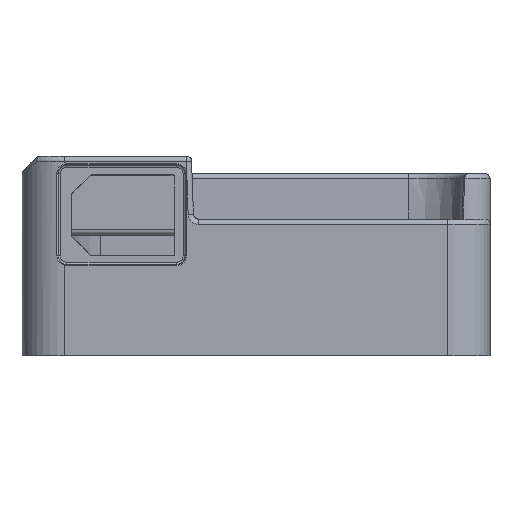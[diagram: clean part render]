
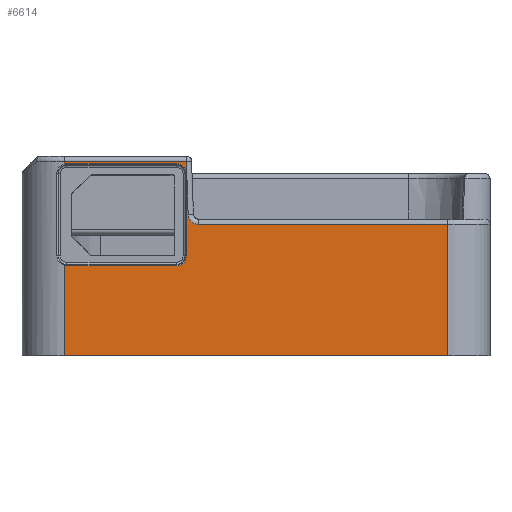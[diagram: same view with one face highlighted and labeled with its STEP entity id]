
A CAD part, front view. The second image highlights one B-rep face of the part: STEP entity #6614.
In plain terms, the highlighted planar face has unit normal (0, -1, 0).
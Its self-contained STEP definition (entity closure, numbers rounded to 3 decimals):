
#35 = CARTESIAN_POINT ( 'NONE',  ( -2.788, -64.3, -0.671 ) ) ;
#175 = LINE ( 'NONE', #29538, #1893 ) ;
#997 = CARTESIAN_POINT ( 'NONE',  ( -3.033, -64.3, -9.215 ) ) ;
#1168 = VECTOR ( 'NONE', #15500, 1000. ) ;
#1251 = ORIENTED_EDGE ( 'NONE', *, *, #22798, .F. ) ;
#1420 = DIRECTION ( 'NONE',  ( 0., -1., 0. ) ) ;
#1774 = CIRCLE ( 'NONE', #11689, 0.921 ) ;
#1811 = CARTESIAN_POINT ( 'NONE',  ( -2.788, -64.3, -0.671 ) ) ;
#1854 = CARTESIAN_POINT ( 'NONE',  ( -2.788, -64.3, 8.05 ) ) ;
#1893 = VECTOR ( 'NONE', #1895, 1000. ) ;
#1895 = DIRECTION ( 'NONE',  ( 0., 0., 1. ) ) ;
#1942 = EDGE_CURVE ( 'NONE', #34396, #5462, #22841, .T. ) ;
#2193 = LINE ( 'NONE', #21628, #30948 ) ;
#2536 = DIRECTION ( 'NONE',  ( 1., 0., 0. ) ) ;
#2759 = CIRCLE ( 'NONE', #34524, 0.921 ) ;
#2939 = CARTESIAN_POINT ( 'NONE',  ( -3.033, -64.3, -9.215 ) ) ;
#2995 = CARTESIAN_POINT ( 'NONE',  ( -3.033, -64.3, -9.215 ) ) ;
#3051 = LINE ( 'NONE', #33082, #31363 ) ;
#3066 = EDGE_CURVE ( 'NONE', #35341, #33434, #175, .T. ) ;
#3166 = CARTESIAN_POINT ( 'NONE',  ( 8.533, -64.3, 8.05 ) ) ;
#3506 = DIRECTION ( 'NONE',  ( 1., 0., 0. ) ) ;
#3571 = CARTESIAN_POINT ( 'NONE',  ( -3.033, -64.3, -9.215 ) ) ;
#4212 = DIRECTION ( 'NONE',  ( 0., 0., -1. ) ) ;
#4400 = LINE ( 'NONE', #2939, #33162 ) ;
#4808 = CARTESIAN_POINT ( 'NONE',  ( 8.525, -64.3, 9.2 ) ) ;
#4963 = EDGE_CURVE ( 'NONE', #22511, #34396, #4400, .T. ) ;
#5050 = CIRCLE ( 'NONE', #35445, 0.921 ) ;
#5120 = ORIENTED_EDGE ( 'NONE', *, *, #7862, .T. ) ;
#5316 = ORIENTED_EDGE ( 'NONE', *, *, #17193, .T. ) ;
#5462 = VERTEX_POINT ( 'NONE', #34553 ) ;
#5679 = VERTEX_POINT ( 'NONE', #1811 ) ;
#6212 = LINE ( 'NONE', #35, #35862 ) ;
#6333 = PLANE ( 'NONE',  #11800 ) ;
#6449 = DIRECTION ( 'NONE',  ( 0., -1., 0. ) ) ;
#6614 = ADVANCED_FACE ( 'NONE', ( #24808 ), #6333, .T. ) ;
#6651 = DIRECTION ( 'NONE',  ( -0.265, 0., -0.964 ) ) ;
#6893 = VERTEX_POINT ( 'NONE', #13858 ) ;
#7454 = CARTESIAN_POINT ( 'NONE',  ( -3.032, -64.3, 9.2 ) ) ;
#7653 = DIRECTION ( 'NONE',  ( -1., 0., 0. ) ) ;
#7862 = EDGE_CURVE ( 'NONE', #5462, #6893, #31678, .T. ) ;
#7899 = ORIENTED_EDGE ( 'NONE', *, *, #30608, .F. ) ;
#7912 = ORIENTED_EDGE ( 'NONE', *, *, #3066, .F. ) ;
#8431 = EDGE_CURVE ( 'NONE', #10307, #5679, #11187, .T. ) ;
#8603 = LINE ( 'NONE', #4808, #1168 ) ;
#9305 = CARTESIAN_POINT ( 'NONE',  ( 9.699, -64.3, 4.225 ) ) ;
#9342 = DIRECTION ( 'NONE',  ( 0., -1., 0. ) ) ;
#9827 = CARTESIAN_POINT ( 'NONE',  ( 8.533, -64.3, 0.25 ) ) ;
#10307 = VERTEX_POINT ( 'NONE', #28756 ) ;
#10747 = EDGE_CURVE ( 'NONE', #16607, #20274, #3051, .T. ) ;
#11187 = CIRCLE ( 'NONE', #23036, 0.921 ) ;
#11422 = CARTESIAN_POINT ( 'NONE',  ( 7.612, -64.3, 8.05 ) ) ;
#11535 = VECTOR ( 'NONE', #19291, 1000. ) ;
#11689 = AXIS2_PLACEMENT_3D ( 'NONE', #1854, #35695, #35577 ) ;
#11732 = CARTESIAN_POINT ( 'NONE',  ( 8.7, -64.3, 4.19 ) ) ;
#11800 = AXIS2_PLACEMENT_3D ( 'NONE', #997, #6449, #14725 ) ;
#11954 = VECTOR ( 'NONE', #31856, 1000. ) ;
#12368 = DIRECTION ( 'NONE',  ( 0., 0., 1. ) ) ;
#12440 = CARTESIAN_POINT ( 'NONE',  ( -2.788, -64.3, 8.971 ) ) ;
#13858 = CARTESIAN_POINT ( 'NONE',  ( 9.699, -64.3, 3.225 ) ) ;
#13877 = DIRECTION ( 'NONE',  ( 1., 0., 0. ) ) ;
#14012 = CARTESIAN_POINT ( 'NONE',  ( -3.033, -64.3, 8.938 ) ) ;
#14553 = VERTEX_POINT ( 'NONE', #3166 ) ;
#14725 = DIRECTION ( 'NONE',  ( 0., 0., -1. ) ) ;
#14866 = EDGE_CURVE ( 'NONE', #27229, #14553, #25062, .T. ) ;
#15261 = CARTESIAN_POINT ( 'NONE',  ( 7.612, -64.3, 0.25 ) ) ;
#15500 = DIRECTION ( 'NONE',  ( 0.035, 0., -0.999 ) ) ;
#16133 = LINE ( 'NONE', #2995, #29233 ) ;
#16607 = VERTEX_POINT ( 'NONE', #31044 ) ;
#17193 = EDGE_CURVE ( 'NONE', #6893, #28298, #34958, .T. ) ;
#17678 = CARTESIAN_POINT ( 'NONE',  ( 33.275, -64.3, -9.215 ) ) ;
#18778 = ORIENTED_EDGE ( 'NONE', *, *, #21095, .F. ) ;
#18807 = CARTESIAN_POINT ( 'NONE',  ( 8.525, -64.3, 9.2 ) ) ;
#19030 = AXIS2_PLACEMENT_3D ( 'NONE', #9305, #25979, #31451 ) ;
#19291 = DIRECTION ( 'NONE',  ( 0., 0., 1. ) ) ;
#19333 = EDGE_CURVE ( 'NONE', #14553, #16607, #5050, .T. ) ;
#19483 = DIRECTION ( 'NONE',  ( -1., 0., 0. ) ) ;
#20274 = VERTEX_POINT ( 'NONE', #12440 ) ;
#20773 = ORIENTED_EDGE ( 'NONE', *, *, #33512, .F. ) ;
#21095 = EDGE_CURVE ( 'NONE', #32409, #27229, #2759, .T. ) ;
#21628 = CARTESIAN_POINT ( 'NONE',  ( -3.032, -64.3, 9.2 ) ) ;
#21793 = ORIENTED_EDGE ( 'NONE', *, *, #1942, .T. ) ;
#21849 = ORIENTED_EDGE ( 'NONE', *, *, #8431, .F. ) ;
#21898 = ORIENTED_EDGE ( 'NONE', *, *, #14866, .F. ) ;
#22059 = CARTESIAN_POINT ( 'NONE',  ( 33.275, -64.3, 3.225 ) ) ;
#22511 = VERTEX_POINT ( 'NONE', #3571 ) ;
#22798 = EDGE_CURVE ( 'NONE', #20274, #35341, #1774, .T. ) ;
#22841 = LINE ( 'NONE', #17678, #11954 ) ;
#23036 = AXIS2_PLACEMENT_3D ( 'NONE', #34423, #9342, #6651 ) ;
#23406 = ORIENTED_EDGE ( 'NONE', *, *, #4963, .T. ) ;
#24278 = VECTOR ( 'NONE', #19483, 1000. ) ;
#24808 = FACE_OUTER_BOUND ( 'NONE', #28619, .T. ) ;
#25062 = LINE ( 'NONE', #32723, #11535 ) ;
#25979 = DIRECTION ( 'NONE',  ( 0., 1., 0. ) ) ;
#27229 = VERTEX_POINT ( 'NONE', #9827 ) ;
#27745 = ORIENTED_EDGE ( 'NONE', *, *, #28300, .F. ) ;
#28298 = VERTEX_POINT ( 'NONE', #11732 ) ;
#28300 = EDGE_CURVE ( 'NONE', #22511, #10307, #16133, .T. ) ;
#28619 = EDGE_LOOP ( 'NONE', ( #28999, #32375, #21898, #18778, #20773, #21849, #27745, #23406, #21793, #5120, #5316, #7899, #30282, #7912, #1251 ) ) ;
#28707 = EDGE_CURVE ( 'NONE', #33434, #28790, #2193, .T. ) ;
#28756 = CARTESIAN_POINT ( 'NONE',  ( -3.033, -64.3, -0.638 ) ) ;
#28790 = VERTEX_POINT ( 'NONE', #18807 ) ;
#28999 = ORIENTED_EDGE ( 'NONE', *, *, #10747, .F. ) ;
#29233 = VECTOR ( 'NONE', #12368, 1000. ) ;
#29538 = CARTESIAN_POINT ( 'NONE',  ( -3.032, -64.3, 8.938 ) ) ;
#30282 = ORIENTED_EDGE ( 'NONE', *, *, #28707, .F. ) ;
#30608 = EDGE_CURVE ( 'NONE', #28790, #28298, #8603, .T. ) ;
#30948 = VECTOR ( 'NONE', #2536, 1000. ) ;
#31044 = CARTESIAN_POINT ( 'NONE',  ( 7.612, -64.3, 8.971 ) ) ;
#31363 = VECTOR ( 'NONE', #7653, 1000. ) ;
#31451 = DIRECTION ( 'NONE',  ( 0., 0., -1. ) ) ;
#31678 = LINE ( 'NONE', #22059, #24278 ) ;
#31856 = DIRECTION ( 'NONE',  ( 0., 0., 1. ) ) ;
#32375 = ORIENTED_EDGE ( 'NONE', *, *, #19333, .F. ) ;
#32409 = VERTEX_POINT ( 'NONE', #32645 ) ;
#32645 = CARTESIAN_POINT ( 'NONE',  ( 7.612, -64.3, -0.671 ) ) ;
#32723 = CARTESIAN_POINT ( 'NONE',  ( 8.533, -64.3, 0.25 ) ) ;
#32875 = DIRECTION ( 'NONE',  ( 1., 0., 0. ) ) ;
#32906 = CARTESIAN_POINT ( 'NONE',  ( 33.275, -64.3, -9.215 ) ) ;
#33082 = CARTESIAN_POINT ( 'NONE',  ( 7.612, -64.3, 8.971 ) ) ;
#33162 = VECTOR ( 'NONE', #13877, 1000. ) ;
#33434 = VERTEX_POINT ( 'NONE', #7454 ) ;
#33512 = EDGE_CURVE ( 'NONE', #5679, #32409, #6212, .T. ) ;
#34175 = DIRECTION ( 'NONE',  ( 0., -1., 0. ) ) ;
#34396 = VERTEX_POINT ( 'NONE', #32906 ) ;
#34423 = CARTESIAN_POINT ( 'NONE',  ( -2.788, -64.3, 0.25 ) ) ;
#34524 = AXIS2_PLACEMENT_3D ( 'NONE', #15261, #1420, #4212 ) ;
#34553 = CARTESIAN_POINT ( 'NONE',  ( 33.275, -64.3, 3.225 ) ) ;
#34958 = CIRCLE ( 'NONE', #19030, 1. ) ;
#35341 = VERTEX_POINT ( 'NONE', #14012 ) ;
#35445 = AXIS2_PLACEMENT_3D ( 'NONE', #11422, #34175, #3506 ) ;
#35577 = DIRECTION ( 'NONE',  ( 0., 0., 1. ) ) ;
#35695 = DIRECTION ( 'NONE',  ( 0., -1., 0. ) ) ;
#35862 = VECTOR ( 'NONE', #32875, 1000. ) ;
